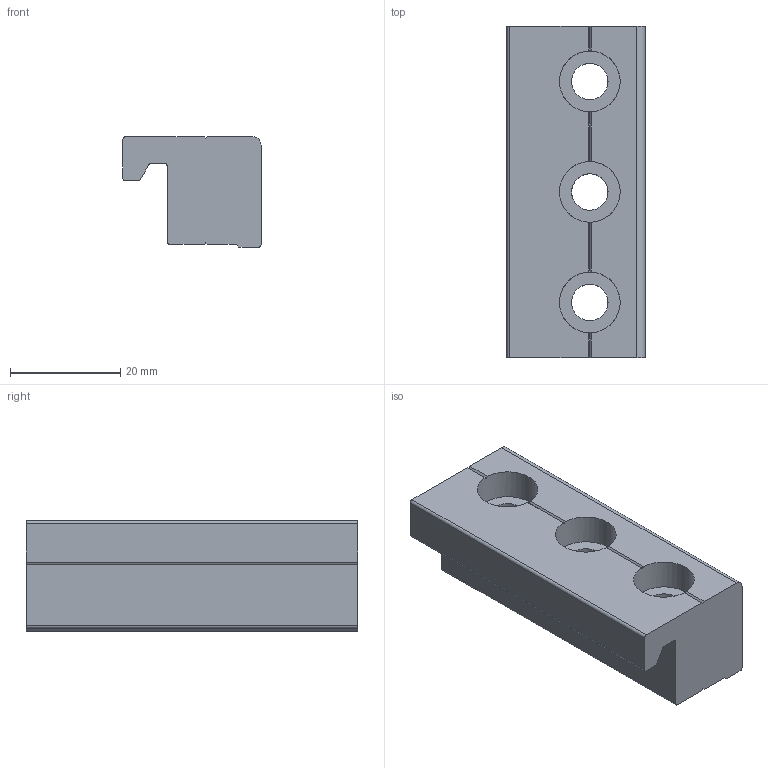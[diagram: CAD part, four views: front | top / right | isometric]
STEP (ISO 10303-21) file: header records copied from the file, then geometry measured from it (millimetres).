
FILE_DESCRIPTION(('STEP AP214'),'1');
FILE_NAME('SL4H-L60.stp','2017-07-26T07:30:18',(' '),(' '),'Spatial InterOp 3D',' ',' ');
FILE_SCHEMA(('automotive_design'));
Length unit declared in the file: millimetre
Products named in the file (1): SL4H-L60
Bounding box: 25 x 60 x 20 mm (x, y, z)
Volume: 20025.2 mm3; surface area: 7594.7 mm2
Topology: 1 solids, 1 shells, 47 faces, 138 edges, 90 vertices
Faces by surface type: plane 33, cylinder 14
Full cylindrical faces by diameter (mm): 6.6 x3, 11 x3
Entity records: 1956 total; most frequent: DIRECTION 286, CARTESIAN_POINT 270, ORIENTED_EDGE 264, EDGE_CURVE 132, AXIS2_PLACEMENT_3D 106, VERTEX_POINT 90, LINE 74, VECTOR 74
